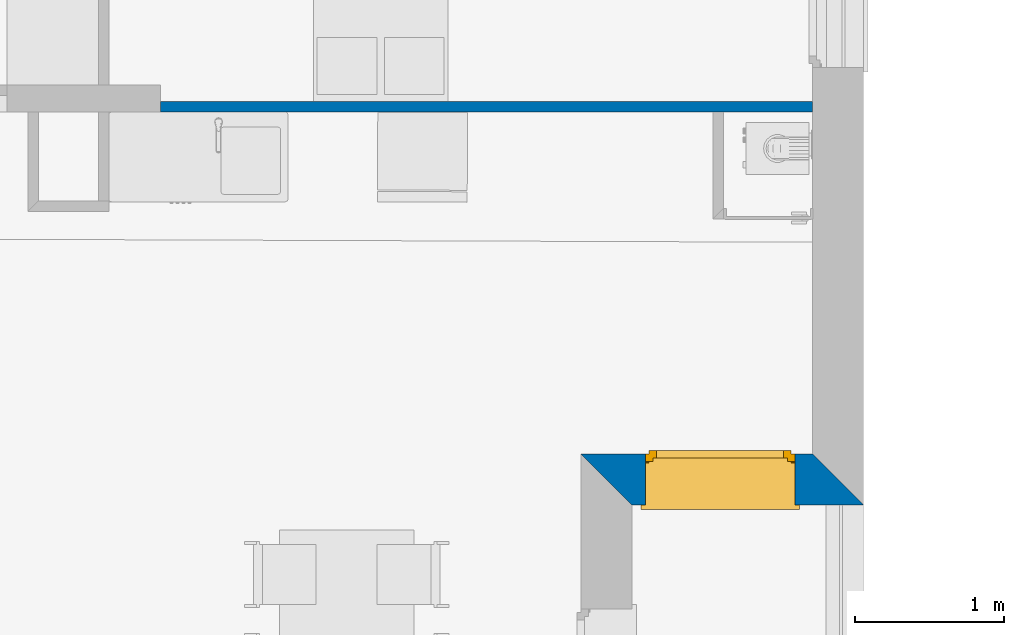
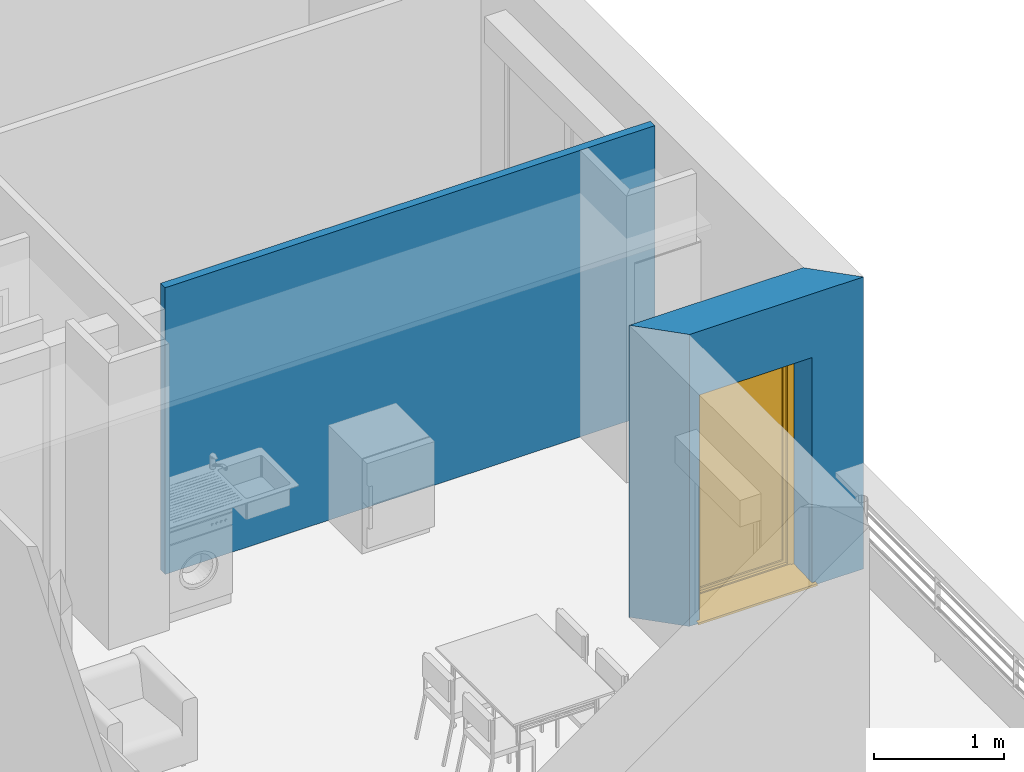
# One storey, part 15 of 164: 2 walls, 1 window, 1 opening.
"""IFC2X3 building model written with IfcOpenShell, lengths in millimetres."""

from ifc_helpers import new_model, entity, si_unit, converted_unit, derived_unit, money_unit, direction, frame, origin_with_axes, place, context, subcontext, project, spatial, polyline, outline, extrude, open_shell, faceted_brep, surface_model, source, transform, mapped, material, layer, layer_set, layer_usage, type_object, element, fill, save


model = new_model("IFC2X3")

# Units and contexts
model_context = context("Model", 3, precision=0.01, world=origin_with_axes(), true_north=direction((0.0, 1.0)))
body_context = subcontext(model_context, "Body", "Model", "MODEL_VIEW")
ifc_project = project(units=[si_unit("LENGTHUNIT", "METRE", prefix="MILLI"), si_unit("AREAUNIT", "SQUARE_METRE"), si_unit("VOLUMEUNIT", "CUBIC_METRE"), converted_unit("PLANEANGLEUNIT", "DEGREE", entity("IfcPlaneAngleMeasure", 0.0174532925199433), si_unit("PLANEANGLEUNIT", "RADIAN"), dimensions=[0, 0, 0, 0, 0, 0, 0]), money_unit("USD"), converted_unit("TIMEUNIT", "Year", entity("IfcTimeMeasure", 31557600.0), si_unit("TIMEUNIT", "SECOND"), dimensions=[0, 0, 1, 0, 0, 0, 0]), si_unit("MASSUNIT", "GRAM", prefix="KILO"), si_unit("THERMODYNAMICTEMPERATUREUNIT", "DEGREE_CELSIUS"), si_unit("LUMINOUSINTENSITYUNIT", "LUMEN"), si_unit("ENERGYUNIT", "JOULE", prefix="MEGA"), derived_unit("THERMALCONDUCTANCEUNIT", [(si_unit("POWERUNIT", "WATT"), 1), (si_unit("LENGTHUNIT", "METRE"), -1), (si_unit("THERMODYNAMICTEMPERATUREUNIT", "KELVIN"), -1)]), derived_unit("SPECIFICHEATCAPACITYUNIT", [(si_unit("ENERGYUNIT", "JOULE"), 1), (si_unit("MASSUNIT", "GRAM", prefix="KILO"), -1), (si_unit("THERMODYNAMICTEMPERATUREUNIT", "KELVIN"), -1)]), derived_unit("MASSDENSITYUNIT", [(si_unit("MASSUNIT", "GRAM", prefix="KILO"), 1), (si_unit("VOLUMEUNIT", "CUBIC_METRE"), -1)])], contexts=[model_context])

# Site, building, storey
site_placement = place(None, origin_with_axes())
site = spatial("IfcSite", under=ifc_project, at=site_placement, Name="Site", CompositionType="ELEMENT")
building_placement = place(site_placement, origin_with_axes())
building = spatial("IfcBuilding", under=site, at=building_placement, Name="Bâtiment", CompositionType="ELEMENT")
storey_placement = place(building_placement, frame((0.0, 0.0, 5750.0), z_axis=(0.0, 0.0, 1.0), x_axis=(1.0, 0.0, 0.0)))
storey = spatial("IfcBuildingStorey", under=building, at=storey_placement, Name="Etage1", CompositionType="ELEMENT", Elevation=5750.0)

# Wall
ifc_material_1 = material(Name="Hachure solide 268963992")
ifc_layer_1 = layer(ifc_material_1, 70.0, ventilated="UNKNOWN")
ifc_layer_set_1 = layer_set([ifc_layer_1], Name="Cloison 70 0826278243")
ifc_layer_usage_1 = layer_usage(ifc_layer_set_1, "AXIS2", "NEGATIVE", 70.0)
wall_type_1 = type_object("IfcWallType", Name="Cloison 70 0826278243 70", PredefinedType="NOTDEFINED")
wall_1_placement = place(storey_placement, frame((2229653.476042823, -652412.6820640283, 0.0), z_axis=(0.0, 0.0, 1.0), x_axis=(0.9999999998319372, 1.833373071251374e-05, 0.0)))
element("IfcWallStandardCase", 1, at=wall_1_placement, inside=storey, type_object=wall_type_1, material=ifc_layer_usage_1, Name="Mur-149", context=body_context, shape_type="SweptSolid", body=[
    extrude(outline(polyline([(1.13686837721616e-10, 0.0), (4363.195254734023, 0.0), (4363.196538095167, 69.99999999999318), (-0.02062861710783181, 70.00000000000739), (1.13686837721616e-10, 0.0)])), origin_with_axes(), (0.0, 0.0, 1.0), 2700.0),
])

# Wall, opening, window
ifc_material_2 = material(Name="Parpaing 312445824")
ifc_layer_2 = layer(ifc_material_2, 180.0, ventilated="UNKNOWN")
ifc_material_3 = material(Name="Isolant styromousse 301821074")
ifc_layer_3 = layer(ifc_material_3, 160.0, ventilated="UNKNOWN")
ifc_layer_set_2 = layer_set([ifc_layer_2, ifc_layer_3], Name="isol int 18+16 0018356637")
ifc_layer_usage_2 = layer_usage(ifc_layer_set_2, "AXIS2", "POSITIVE", 0.0)
wall_type_2 = type_object("IfcWallType", Name="isol int 18+16 0018356637 340", PredefinedType="NOTDEFINED")
wall_2_placement = place(storey_placement, frame((2232806.658098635, -655041.4677782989, 0.0), z_axis=(0.0, 0.0, 1.0), x_axis=(1.0, 0.0, 0.0)))
wall_2 = element("IfcWallStandardCase", 2, at=wall_2_placement, inside=storey, type_object=wall_type_2, material=ifc_layer_usage_2, Name="Mur-142", context=body_context, shape_type="SweptSolid", body=[
    extrude(outline(polyline([(0.0, 0.0), (1550.013198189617, 0.0), (1210.013198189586, 340.0000000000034), (-340.0000000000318, 340.0000000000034), (0.0, 0.0)])), origin_with_axes(), (0.0, 0.0, 1.0), 2750.0),
])
opening_placement = place(wall_2_placement, frame((591.6458676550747, 0.0, 0.0), z_axis=(0.0, 0.0, 1.0), x_axis=(1.0, 0.0, 0.0)))
opening = element("IfcOpeningElement", 3, at=opening_placement, cuts=wall_2, Name="Fen-208", context=body_context, shape_type="Brep", body=[
    faceted_brep([(-500.0, 341.0000000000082, 2150.0), (500.0, 341.0000000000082, 2150.0), (500.0, 341.0000000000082, 0.0), (-500.0, 341.0000000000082, 0.0), (-500.0, 530.0000000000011, 2150.0), (500.0, 530.0000000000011, 2150.0), (500.0, 290.0000000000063, 2150.0), (500.0, 290.0000000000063, 0.0), (500.0, -1.000000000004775, 0.0), (-500.0, -1.000000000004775, 0.0), (-500.0, 290.0000000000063, 0.0), (-500.0, 290.0000000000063, 2150.0), (-500.0, 280.0000000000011, 2150.0), (-500.0, 280.0000000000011, 2400.0), (-500.0, 530.0000000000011, 2400.0), (500.0, 530.0000000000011, 2400.0), (500.0, 280.0000000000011, 2400.0), (500.0, 280.0000000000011, 2150.0), (500.0, -1.000000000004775, 2150.0), (-500.0, -1.000000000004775, 2150.0)], [[[0, 1, 2, 3]], [[1, 0, 4, 5]], [[1, 6, 7, 2]], [[7, 8, 9, 10, 3, 2]], [[11, 0, 3, 10]], [[0, 11, 12, 13, 14, 4]], [[15, 5, 4, 14]], [[6, 1, 5, 15, 16, 17]], [[6, 17, 18, 8, 7]], [[19, 9, 8, 18]], [[12, 11, 10, 9, 19]], [[12, 17, 16, 13]], [[16, 15, 14, 13]], [[17, 12, 19, 18]]]),
])
window_style = type_object("IfcWindowStyle", Name="Fenêtre 27", ConstructionType="NOTDEFINED", OperationType="SINGLE_PANEL", ParameterTakesPrecedence=False, Sizeable=False)
shared_shape = source(origin_with_axes(), body_context, "Body", "SurfaceModel", [
    surface_model("IfcShellBasedSurfaceModel", [(500.0, -51.00000000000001, 40.00000000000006), (500.0, -51.00000000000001, 50.00000000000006), (-500.0, -51.00000000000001, 50.0), (-500.0, -51.00000000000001, 40.0), (530.0, -369.9999999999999, 28.96551724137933), (530.0, -339.9999999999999, 30.00324289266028), (500.0, -339.9999999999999, 30.00324289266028), (-500.0, -339.9999999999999, 30.00324289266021), (-530.0, -339.9999999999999, 30.00324289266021), (-530.0, -369.9999999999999, 28.96551724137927), (530.0, -369.9999999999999, 8.96551724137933), (-530.0, -369.9999999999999, 8.965517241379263), (530.0, -359.9999999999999, 18.96551724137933), (-530.0, -359.9999999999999, 18.96551724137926)], [open_shell([[[0, 1, 2, 3]], [[4, 5, 6, 0, 3, 7, 8, 9]], [[10, 4, 9, 11]], [[12, 10, 11, 13]]])]),
    faceted_brep([(-500.0, -59.99999999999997, 2400.0), (-497.0, -59.99999999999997, 2400.0), (-497.0, 190.0, 2400.0), (-500.0, 190.0, 2400.0), (-500.0, -59.99999999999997, 2150.0), (-497.0, -59.99999999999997, 2150.0), (-497.0, 190.0, 2150.0), (-500.0, 190.0, 2150.0)], [[[0, 1, 2, 3]], [[4, 5, 1, 0]], [[1, 5, 6, 2]], [[3, 2, 6, 7]], [[0, 3, 7, 4]], [[7, 6, 5, 4]]]),
    faceted_brep([(497.0, -59.99999999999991, 2400.0), (500.0, -59.99999999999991, 2400.0), (500.0, 190.0000000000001, 2400.0), (497.0, 190.0000000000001, 2400.0), (497.0, -59.99999999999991, 2150.0), (500.0, -59.99999999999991, 2150.0), (500.0, 190.0000000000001, 2150.0), (497.0, 190.0000000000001, 2150.0)], [[[0, 1, 2, 3]], [[4, 5, 1, 0]], [[1, 5, 6, 2]], [[3, 2, 6, 7]], [[0, 3, 7, 4]], [[7, 6, 5, 4]]]),
    faceted_brep([(-497.0, -60.0, 2150.0), (497.0, -59.99999999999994, 2150.0), (497.0, -59.99999999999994, 2400.0), (-497.0, -60.0, 2400.0), (-497.0, -56.99999999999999, 2150.0), (497.0, -56.99999999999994, 2150.0), (497.0, -56.99999999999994, 2397.0), (497.0, 187.0000000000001, 2397.0), (497.0, 187.0000000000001, 2153.0), (497.0, -37.99999999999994, 2153.0), (497.0, -37.99999999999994, 2150.0), (497.0, 190.0000000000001, 2150.0), (497.0, 190.0000000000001, 2400.0), (-497.0, 190.0, 2400.0), (-497.0, 190.0, 2150.0), (-497.0, -37.99999999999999, 2150.0), (-497.0, -37.99999999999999, 2153.0), (-497.0, 187.0, 2153.0), (-497.0, 187.0, 2397.0), (-497.0, -56.99999999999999, 2397.0)], [[[0, 1, 2, 3]], [[4, 5, 1, 0]], [[1, 5, 6, 7, 8, 9, 10, 11, 12, 2]], [[3, 2, 12, 13]], [[0, 3, 13, 14, 15, 16, 17, 18, 19, 4]], [[19, 6, 5, 4]], [[18, 7, 6, 19]], [[17, 8, 7, 18]], [[16, 9, 8, 17]], [[15, 10, 9, 16]], [[14, 11, 10, 15]], [[13, 12, 11, 14]]]),
    faceted_brep([(-494.0, -40.37442957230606, 2256.419644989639), (-494.0, -41.99999999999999, 2275.0), (-494.0, -40.37442957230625, 2293.580355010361), (-494.0, -35.54711042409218, 2311.596155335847), (-494.0, -27.66471820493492, 2328.5), (-494.0, -16.96675541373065, 2343.77827423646), (-494.0, -3.778274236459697, 2356.96675541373), (-494.0, 11.5, 2367.664718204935), (-494.0, 28.40384466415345, 2375.547110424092), (-494.0, 46.41964498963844, 2380.374429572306), (-494.0, 64.99999999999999, 2382.0), (-494.0, 83.58035501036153, 2380.374429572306), (-494.0, 101.5961553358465, 2375.547110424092), (-494.0, 118.5, 2367.664718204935), (-494.0, 133.7782742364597, 2356.96675541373), (-494.0, 146.9667554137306, 2343.77827423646), (-494.0, 157.6647182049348, 2328.5), (-494.0, 165.5471104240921, 2311.596155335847), (-494.0, 170.3744295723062, 2293.580355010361), (-494.0, 171.9999999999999, 2275.0), (-494.0, 170.3744295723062, 2256.419644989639), (-494.0, 165.5471104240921, 2238.403844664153), (-494.0, 157.6647182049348, 2221.5), (-494.0, 146.9667554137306, 2206.22172576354), (-494.0, 133.7782742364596, 2193.033244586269), (-494.0, 118.4999999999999, 2182.335281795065), (-494.0, 101.5961553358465, 2174.452889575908), (-494.0, 83.58035501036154, 2169.625570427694), (-494.0, 65.00000000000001, 2168.0), (-494.0, 46.4196449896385, 2169.625570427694), (-494.0, 28.40384466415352, 2174.452889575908), (-494.0, 11.50000000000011, 2182.335281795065), (-494.0, -3.778274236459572, 2193.033244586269), (-494.0, -16.9667554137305, 2206.22172576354), (-494.0, -27.66471820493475, 2221.5), (-494.0, -35.54711042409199, 2238.403844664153), (494.0, -40.374429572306, 2256.419644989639), (494.0, -41.99999999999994, 2275.0), (494.0, -40.37442957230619, 2293.580355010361), (494.0, -35.54711042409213, 2311.596155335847), (494.0, -27.66471820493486, 2328.5), (494.0, -16.96675541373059, 2343.77827423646), (494.0, -3.778274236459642, 2356.96675541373), (494.0, 11.50000000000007, 2367.664718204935), (494.0, 28.40384466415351, 2375.547110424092), (494.0, 46.41964498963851, 2380.374429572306), (494.0, 65.00000000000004, 2382.0), (494.0, 83.58035501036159, 2380.374429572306), (494.0, 101.5961553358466, 2375.547110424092), (494.0, 118.5, 2367.664718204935), (494.0, 133.7782742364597, 2356.96675541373), (494.0, 146.9667554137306, 2343.77827423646), (494.0, 157.6647182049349, 2328.5), (494.0, 165.5471104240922, 2311.596155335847), (494.0, 170.3744295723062, 2293.580355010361), (494.0, 172.0, 2275.0), (494.0, 170.3744295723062, 2256.419644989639), (494.0, 165.5471104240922, 2238.403844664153), (494.0, 157.6647182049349, 2221.5), (494.0, 146.9667554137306, 2206.22172576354), (494.0, 133.7782742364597, 2193.033244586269), (494.0, 118.5, 2182.335281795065), (494.0, 101.5961553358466, 2174.452889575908), (494.0, 83.5803550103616, 2169.625570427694), (494.0, 65.00000000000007, 2168.0), (494.0, 46.41964498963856, 2169.625570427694), (494.0, 28.40384466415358, 2174.452889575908), (494.0, 11.50000000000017, 2182.335281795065), (494.0, -3.778274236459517, 2193.033244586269), (494.0, -16.96675541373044, 2206.22172576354), (494.0, -27.6647182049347, 2221.5), (494.0, -35.54711042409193, 2238.403844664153)], [[[0, 1, 2, 3, 4, 5, 6, 7, 8, 9, 10, 11, 12, 13, 14, 15, 16, 17, 18, 19, 20, 21, 22, 23, 24, 25, 26, 27, 28, 29, 30, 31, 32, 33, 34, 35]], [[0, 36, 37, 1]], [[1, 37, 38, 2]], [[2, 38, 39, 3]], [[3, 39, 40, 4]], [[4, 40, 41, 5]], [[5, 41, 42, 6]], [[6, 42, 43, 7]], [[7, 43, 44, 8]], [[8, 44, 45, 9]], [[9, 45, 46, 10]], [[10, 46, 47, 11]], [[11, 47, 48, 12]], [[12, 48, 49, 13]], [[13, 49, 50, 14]], [[14, 50, 51, 15]], [[15, 51, 52, 16]], [[16, 52, 53, 17]], [[17, 53, 54, 18]], [[18, 54, 55, 19]], [[19, 55, 56, 20]], [[20, 56, 57, 21]], [[21, 57, 58, 22]], [[22, 58, 59, 23]], [[23, 59, 60, 24]], [[24, 60, 61, 25]], [[25, 61, 62, 26]], [[26, 62, 63, 27]], [[27, 63, 64, 28]], [[28, 64, 65, 29]], [[29, 65, 66, 30]], [[30, 66, 67, 31]], [[31, 67, 68, 32]], [[32, 68, 69, 33]], [[33, 69, 70, 34]], [[34, 70, 71, 35]], [[35, 71, 36, 0]], [[36, 71, 70, 69, 68, 67, 66, 65, 64, 63, 62, 61, 60, 59, 58, 57, 56, 55, 54, 53, 52, 51, 50, 49, 48, 47, 46, 45, 44, 43, 42, 41, 40, 39, 38, 37]]]),
    faceted_brep([(500.0, -34.99999999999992, 30.0), (500.0, -34.99999999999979, 2150.0), (500.0, -59.99999999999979, 2150.0), (500.0, -59.99999999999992, 30.0), (475.0, -34.99999999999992, 30.0), (475.0, -34.99999999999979, 2150.0), (475.0, -37.99999999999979, 2150.0), (497.0, -37.99999999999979, 2150.0), (497.0, -56.99999999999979, 2150.0), (475.0, -56.99999999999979, 2150.0), (475.0, -59.99999999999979, 2150.0), (475.0, -59.99999999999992, 30.0), (475.0, -56.99999999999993, 30.0), (497.0, -56.99999999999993, 30.0), (497.0, -37.99999999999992, 30.0), (475.0, -37.99999999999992, 30.0)], [[[0, 1, 2, 3]], [[4, 5, 1, 0]], [[1, 5, 6, 7, 8, 9, 10, 2]], [[3, 2, 10, 11]], [[0, 3, 11, 12, 13, 14, 15, 4]], [[15, 6, 5, 4]], [[14, 7, 6, 15]], [[13, 8, 7, 14]], [[12, 9, 8, 13]], [[11, 10, 9, 12]]]),
    faceted_brep([(-500.0, -34.99999999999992, 30.0), (-500.0, -59.99999999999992, 30.0), (-500.0, -59.99999999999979, 2150.0), (-500.0, -34.99999999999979, 2150.0), (-475.0, -34.99999999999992, 30.0), (-475.0, -37.99999999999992, 30.0), (-497.0, -37.99999999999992, 30.0), (-497.0, -56.99999999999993, 30.0), (-475.0, -56.99999999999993, 30.0), (-475.0, -59.99999999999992, 30.0), (-475.0, -59.99999999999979, 2150.0), (-475.0, -56.99999999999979, 2150.0), (-497.0, -56.99999999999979, 2150.0), (-497.0, -37.99999999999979, 2150.0), (-475.0, -37.99999999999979, 2150.0), (-475.0, -34.99999999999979, 2150.0)], [[[0, 1, 2, 3]], [[0, 4, 5, 6, 7, 8, 9, 1]], [[1, 9, 10, 2]], [[3, 2, 10, 11, 12, 13, 14, 15]], [[4, 0, 3, 15]], [[5, 4, 15, 14]], [[6, 5, 14, 13]], [[7, 6, 13, 12]], [[8, 7, 12, 11]], [[9, 8, 11, 10]]]),
    faceted_brep([(497.0, -46.66666666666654, 2275.0), (497.0, -46.66666666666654, 2266.666666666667), (-497.0, -46.6666666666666, 2266.666666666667), (-497.0, -46.6666666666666, 2275.0), (497.0, -51.66666666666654, 2275.0), (497.0, -51.66666666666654, 2266.666666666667), (497.0, -49.99999999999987, 2250.0), (497.0, -44.99999999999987, 2250.0), (-497.0, -44.99999999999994, 2250.0), (-497.0, -49.99999999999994, 2250.0), (-497.0, -51.6666666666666, 2266.666666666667), (-497.0, -51.6666666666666, 2275.0)], [[[0, 1, 2, 3]], [[4, 5, 6, 7, 1, 0]], [[2, 1, 7, 8]], [[3, 2, 8, 9, 10, 11]], [[3, 11, 4, 0]], [[10, 5, 4, 11]], [[9, 6, 5, 10]], [[8, 7, 6, 9]]]),
    faceted_brep([(-497.0, -44.99999999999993, 2250.0), (497.0, -44.99999999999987, 2250.0), (497.0, -46.66666666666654, 2233.333333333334), (-497.0, -46.6666666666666, 2233.333333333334), (-497.0, -49.99999999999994, 2250.0), (497.0, -49.99999999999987, 2250.0), (497.0, -51.66666666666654, 2233.333333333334), (497.0, -51.66666666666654, 2216.666666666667), (497.0, -49.99999999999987, 2200.0), (497.0, -44.99999999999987, 2200.0), (497.0, -46.66666666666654, 2216.666666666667), (-497.0, -46.6666666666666, 2216.666666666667), (-497.0, -44.99999999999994, 2200.0), (-497.0, -49.99999999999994, 2200.0), (-497.0, -51.6666666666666, 2216.666666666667), (-497.0, -51.6666666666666, 2233.333333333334)], [[[0, 1, 2, 3]], [[4, 5, 1, 0]], [[1, 5, 6, 7, 8, 9, 10, 2]], [[3, 2, 10, 11]], [[0, 3, 11, 12, 13, 14, 15, 4]], [[15, 6, 5, 4]], [[14, 7, 6, 15]], [[13, 8, 7, 14]], [[12, 9, 8, 13]], [[11, 10, 9, 12]]]),
    faceted_brep([(-497.0, -44.99999999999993, 2200.0), (497.0, -44.99999999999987, 2200.0), (497.0, -46.66666666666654, 2183.333333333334), (-497.0, -46.6666666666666, 2183.333333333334), (-497.0, -49.99999999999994, 2200.0), (497.0, -49.99999999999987, 2200.0), (497.0, -51.66666666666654, 2183.333333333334), (497.0, -51.66666666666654, 2166.666666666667), (497.0, -49.99999999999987, 2150.000000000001), (497.0, -44.99999999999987, 2150.000000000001), (497.0, -46.66666666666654, 2166.666666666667), (-497.0, -46.6666666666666, 2166.666666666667), (-497.0, -44.99999999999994, 2150.000000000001), (-497.0, -49.99999999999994, 2150.000000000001), (-497.0, -51.6666666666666, 2166.666666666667), (-497.0, -51.6666666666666, 2183.333333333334)], [[[0, 1, 2, 3]], [[4, 5, 1, 0]], [[1, 5, 6, 7, 8, 9, 10, 2]], [[3, 2, 10, 11]], [[0, 3, 11, 12, 13, 14, 15, 4]], [[15, 6, 5, 4]], [[14, 7, 6, 15]], [[13, 8, 7, 14]], [[12, 9, 8, 13]], [[11, 10, 9, 12]]]),
    faceted_brep([(-475.0000000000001, 0.0, 2100.0), (-500.0, 0.0, 2100.0), (-500.0, -50.00000000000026, 2100.0), (-450.0, -50.00000000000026, 2100.0), (-450.0, -25.00000000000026, 2100.0), (-475.0000000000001, -25.00000000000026, 2100.0), (-475.0000000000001, 0.0, 50.00000000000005), (-500.0, 0.0, 50.00000000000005), (-500.0, -50.00000000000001, 50.00000000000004), (-450.0, -50.00000000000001, 50.00000000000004), (-450.0, -25.00000000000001, 50.00000000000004), (-475.0000000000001, -25.00000000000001, 50.00000000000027)], [[[0, 1, 2, 3, 4, 5]], [[6, 7, 1, 0]], [[1, 7, 8, 2]], [[2, 8, 9, 3]], [[4, 3, 9, 10]], [[10, 11, 5, 4]], [[5, 11, 6, 0]], [[11, 10, 9, 8, 7, 6]]]),
    faceted_brep([(450.0, -25.00000000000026, 2100.0), (450.0, -50.00000000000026, 2100.0), (500.0, -50.00000000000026, 2100.0), (500.0, 0.0, 2100.0), (475.0000000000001, 0.0, 2100.0), (475.0000000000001, -25.00000000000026, 2100.0), (450.0, -25.00000000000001, 50.00000000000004), (450.0, -50.00000000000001, 50.00000000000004), (500.0, -50.00000000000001, 50.00000000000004), (500.0, 0.0, 50.00000000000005), (475.0000000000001, 0.0, 50.00000000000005), (475.0000000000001, -25.00000000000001, 50.00000000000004)], [[[0, 1, 2, 3, 4, 5]], [[6, 7, 1, 0]], [[8, 2, 1, 7]], [[9, 3, 2, 8]], [[4, 3, 9, 10]], [[10, 11, 5, 4]], [[5, 11, 6, 0]], [[11, 10, 9, 8, 7, 6]]]),
    faceted_brep([(450.0, -25.00000000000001, 50.00000000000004), (450.0, -50.00000000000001, 50.00000000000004), (500.0, -50.00000000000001, 50.00000000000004), (500.0, 0.0, 50.00000000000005), (475.0000000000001, 0.0, 50.00000000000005), (475.0000000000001, -25.00000000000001, 50.00000000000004), (-450.0, -25.00000000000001, 50.00000000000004), (-450.0, -50.00000000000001, 50.00000000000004), (-500.0, -50.00000000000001, 50.00000000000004), (-500.0, -50.0, 0.0), (500.0, -50.0, 0.0), (500.0, 0.0, 0.0), (-475.0000000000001, 0.0, 24.99999999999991), (475.0000000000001, 0.0, 24.99999999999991), (-500.0, 0.0, 0.0), (-500.0, 0.0, 50.00000000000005), (-475.0000000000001, 0.0, 50.00000000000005), (475.0000000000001, -25.0, 24.99999999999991), (-475.0000000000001, -25.0, 24.99999999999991), (-475.0000000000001, -25.00000000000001, 50.00000000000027)], [[[0, 1, 2, 3, 4, 5]], [[6, 7, 1, 0]], [[8, 9, 10, 2, 1, 7]], [[11, 3, 2, 10]], [[12, 13, 4, 3, 11, 14, 15, 16]], [[13, 17, 5, 4]], [[5, 17, 18, 19, 6, 0]], [[19, 16, 15, 8, 7, 6]], [[15, 14, 9, 8]], [[14, 11, 10, 9]], [[12, 18, 17, 13]], [[19, 18, 12, 16]]]),
    faceted_brep([(-475.0000000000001, 0.0, 2100.0), (-500.0, 0.0, 2100.0), (-500.0, 0.0, 2150.0), (500.0, 0.0, 2150.0), (500.0, 0.0, 2100.0), (475.0000000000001, 0.0, 2100.0), (475.0000000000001, 0.0, 2125.0), (-475.0000000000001, 0.0, 2125.0), (-475.0000000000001, -25.00000000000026, 2100.0), (-450.0, -25.00000000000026, 2100.0), (-450.0, -50.00000000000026, 2100.0), (-500.0, -50.00000000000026, 2100.0), (-500.0, -50.00000000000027, 2150.0), (500.0, -50.00000000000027, 2150.0), (500.0, -50.00000000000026, 2100.0), (475.0000000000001, -25.00000000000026, 2100.0), (450.0, -50.00000000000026, 2100.0), (450.0, -25.00000000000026, 2100.0), (475.0000000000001, -25.00000000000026, 2125.0), (-475.0000000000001, -25.00000000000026, 2125.0)], [[[0, 1, 2, 3, 4, 5, 6, 7]], [[8, 9, 10, 11, 1, 0]], [[2, 1, 11, 12]], [[3, 2, 12, 13]], [[4, 3, 13, 14]], [[15, 5, 4, 14, 16, 17]], [[5, 15, 18, 6]], [[6, 18, 19, 7]], [[7, 19, 8, 0]], [[17, 9, 8, 19, 18, 15]], [[17, 16, 10, 9]], [[14, 13, 12, 11, 10, 16]]]),
    faceted_brep([(-425.0000000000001, -25.00000000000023, 2075.0), (-425.0000000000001, 24.99999999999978, 2075.0), (-475.0000000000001, 24.99999999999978, 2075.0), (-475.0000000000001, -25.00000000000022, 2075.0), (-425.0000000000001, -24.99999999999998, 75.00000000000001), (-425.0000000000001, 25.00000000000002, 75.00000000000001), (-475.0000000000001, 25.00000000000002, 75.00000000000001), (-475.0000000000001, -24.99999999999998, 75.00000000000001)], [[[0, 1, 2, 3]], [[4, 5, 1, 0]], [[1, 5, 6, 2]], [[3, 2, 6, 7]], [[0, 3, 7, 4]], [[7, 6, 5, 4]]]),
    faceted_brep([(425.0000000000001, -25.00000000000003, 75.00000000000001), (425.0000000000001, 24.99999999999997, 75.00000000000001), (475.0000000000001, 24.99999999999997, 75.00000000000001), (475.0000000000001, -25.00000000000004, 75.00000000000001), (425.0000000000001, -25.00000000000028, 2075.0), (425.0000000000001, 24.99999999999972, 2075.0), (475.0000000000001, 24.99999999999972, 2075.0), (475.0000000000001, -25.00000000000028, 2075.0)], [[[0, 1, 2, 3]], [[4, 5, 1, 0]], [[1, 5, 6, 2]], [[3, 2, 6, 7]], [[0, 3, 7, 4]], [[7, 6, 5, 4]]]),
    faceted_brep([(475.0000000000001, -25.00000000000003, 25.0), (475.0000000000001, 24.99999999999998, 25.00000000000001), (475.0000000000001, 24.99999999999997, 75.00000000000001), (475.0000000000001, -25.00000000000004, 75.00000000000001), (-475.0000000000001, -24.99999999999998, 25.0), (-475.0000000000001, 25.00000000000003, 25.00000000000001), (-475.0000000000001, 25.00000000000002, 75.00000000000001), (-425.0000000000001, 25.00000000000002, 75.00000000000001), (425.0000000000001, 24.99999999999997, 75.00000000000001), (425.0000000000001, -25.00000000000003, 75.00000000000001), (-425.0000000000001, -24.99999999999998, 75.00000000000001), (-475.0000000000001, -24.99999999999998, 75.00000000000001)], [[[0, 1, 2, 3]], [[4, 5, 1, 0]], [[1, 5, 6, 7, 8, 2]], [[3, 2, 8, 9]], [[0, 3, 9, 10, 11, 4]], [[11, 6, 5, 4]], [[10, 7, 6, 11]], [[9, 8, 7, 10]]]),
    faceted_brep([(-475.0000000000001, -25.00000000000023, 2125.0), (-475.0000000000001, 24.99999999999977, 2125.0), (-475.0000000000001, 24.99999999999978, 2075.0), (-475.0000000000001, -25.00000000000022, 2075.0), (475.0000000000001, -25.00000000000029, 2125.0), (475.0000000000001, 24.99999999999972, 2125.0), (475.0000000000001, 24.99999999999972, 2075.0), (425.0000000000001, 24.99999999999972, 2075.0), (-425.0000000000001, 24.99999999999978, 2075.0), (-425.0000000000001, -25.00000000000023, 2075.0), (425.0000000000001, -25.00000000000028, 2075.0), (475.0000000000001, -25.00000000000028, 2075.0)], [[[0, 1, 2, 3]], [[4, 5, 1, 0]], [[1, 5, 6, 7, 8, 2]], [[3, 2, 8, 9]], [[0, 3, 9, 10, 11, 4]], [[11, 6, 5, 4]], [[10, 7, 6, 11]], [[9, 8, 7, 10]]]),
    surface_model("IfcShellBasedSurfaceModel", [(-425.0000000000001, -10.00000000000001, 75.00000000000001), (425.0000000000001, -10.00000000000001, 75.00000000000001), (425.0000000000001, -10.00000000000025, 2075.0), (-425.0000000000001, -10.00000000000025, 2075.0)], [open_shell([[[0, 1, 2, 3]]])]),
    surface_model("IfcShellBasedSurfaceModel", [(-425.0000000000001, 9.999999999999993, 75.00000000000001), (-425.0000000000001, 9.99999999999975, 2075.0), (425.0000000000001, 9.99999999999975, 2075.0), (425.0000000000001, 9.999999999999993, 75.00000000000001)], [open_shell([[[0, 1, 2, 3]]])]),
])
window_placement = place(opening_placement, frame((-500.0000000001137, 0.0, 0.0), z_axis=(0.0, 0.0, 1.0), x_axis=(1.0, 0.0, 0.0)))
window = element("IfcWindow", 4, at=window_placement, inside=storey, type_object=window_style, Name="Fen-208", OverallHeight=2150.0, OverallWidth=1000.0, context=body_context, shape_type="MappedRepresentation", body=[
    mapped(shared_shape, transform((500.0, 340.0000000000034, 0.0))),
])
fill(opening, window)

save(model, "model.ifc")
